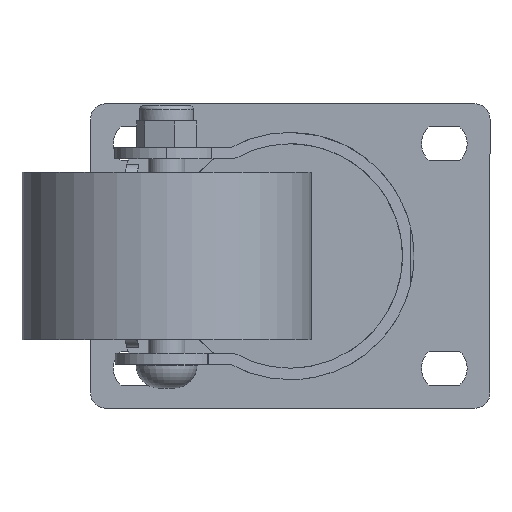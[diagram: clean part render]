
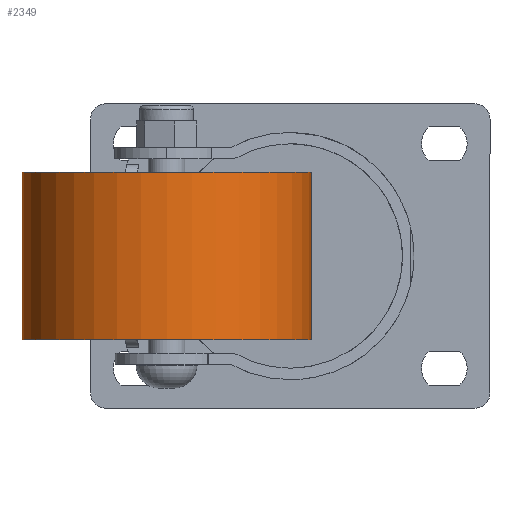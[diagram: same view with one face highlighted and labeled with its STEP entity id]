
A CAD part, front view. The second image highlights one B-rep face of the part: STEP entity #2349.
In plain terms, the highlighted cylindrical face has radius 38 mm (diameter 76 mm), a partial arc.
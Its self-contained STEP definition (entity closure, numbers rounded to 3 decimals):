
#83 = CYLINDRICAL_SURFACE ( 'NONE', #198, 38. ) ;
#150 = AXIS2_PLACEMENT_3D ( 'NONE', #3124, #1399, #3403 ) ;
#198 = AXIS2_PLACEMENT_3D ( 'NONE', #1790, #1485, #876 ) ;
#283 = VECTOR ( 'NONE', #1469, 1000. ) ;
#357 = CARTESIAN_POINT ( 'NONE',  ( 278.007, 116.026, -18. ) ) ;
#541 = AXIS2_PLACEMENT_3D ( 'NONE', #3388, #1685, #3688 ) ;
#822 = CIRCLE ( 'NONE', #150, 38. ) ;
#876 = DIRECTION ( 'NONE',  ( 1., 0., 0. ) ) ;
#1112 = VECTOR ( 'NONE', #3634, 1000. ) ;
#1391 = VERTEX_POINT ( 'NONE', #357 ) ;
#1399 = DIRECTION ( 'NONE',  ( 0., 0., 1. ) ) ;
#1469 = DIRECTION ( 'NONE',  ( 0., 0., 1. ) ) ;
#1485 = DIRECTION ( 'NONE',  ( 0., 0., 1. ) ) ;
#1526 = ORIENTED_EDGE ( 'NONE', *, *, #2305, .F. ) ;
#1685 = DIRECTION ( 'NONE',  ( 0., 0., -1. ) ) ;
#1768 = CARTESIAN_POINT ( 'NONE',  ( 202.007, 116.026, -62. ) ) ;
#1782 = FACE_OUTER_BOUND ( 'NONE', #3406, .T. ) ;
#1790 = CARTESIAN_POINT ( 'NONE',  ( 240.007, 116.026, -62. ) ) ;
#1810 = ORIENTED_EDGE ( 'NONE', *, *, #1909, .F. ) ;
#1871 = LINE ( 'NONE', #1768, #283 ) ;
#1908 = LINE ( 'NONE', #3620, #1112 ) ;
#1909 = EDGE_CURVE ( 'NONE', #2884, #1939, #3592, .T. ) ;
#1939 = VERTEX_POINT ( 'NONE', #3110 ) ;
#2051 = ORIENTED_EDGE ( 'NONE', *, *, #3507, .T. ) ;
#2072 = CARTESIAN_POINT ( 'NONE',  ( 202.007, 116.026, -18. ) ) ;
#2291 = VERTEX_POINT ( 'NONE', #2072 ) ;
#2305 = EDGE_CURVE ( 'NONE', #1939, #2291, #1871, .T. ) ;
#2349 = ADVANCED_FACE ( 'NONE', ( #1782 ), #83, .T. ) ;
#2884 = VERTEX_POINT ( 'NONE', #3318 ) ;
#3110 = CARTESIAN_POINT ( 'NONE',  ( 202.007, 116.026, -62. ) ) ;
#3124 = CARTESIAN_POINT ( 'NONE',  ( 240.007, 116.026, -18. ) ) ;
#3318 = CARTESIAN_POINT ( 'NONE',  ( 278.007, 116.026, -62. ) ) ;
#3388 = CARTESIAN_POINT ( 'NONE',  ( 240.007, 116.026, -62. ) ) ;
#3403 = DIRECTION ( 'NONE',  ( 1., 0., 0. ) ) ;
#3405 = ORIENTED_EDGE ( 'NONE', *, *, #3623, .F. ) ;
#3406 = EDGE_LOOP ( 'NONE', ( #1526, #1810, #2051, #3405 ) ) ;
#3507 = EDGE_CURVE ( 'NONE', #2884, #1391, #1908, .T. ) ;
#3592 = CIRCLE ( 'NONE', #541, 38. ) ;
#3620 = CARTESIAN_POINT ( 'NONE',  ( 278.007, 116.026, -62. ) ) ;
#3623 = EDGE_CURVE ( 'NONE', #2291, #1391, #822, .T. ) ;
#3634 = DIRECTION ( 'NONE',  ( 0., 0., 1. ) ) ;
#3688 = DIRECTION ( 'NONE',  ( 1., 0., 0. ) ) ;
